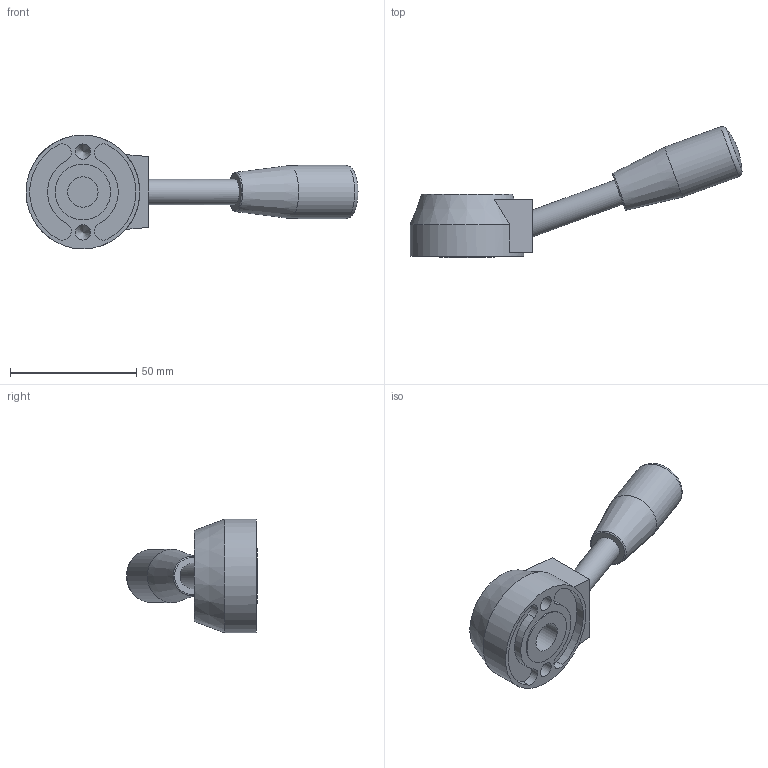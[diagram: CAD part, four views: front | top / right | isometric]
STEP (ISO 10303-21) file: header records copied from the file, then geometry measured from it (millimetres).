
FILE_DESCRIPTION( ( 'STEP AP203' ), '1' );
FILE_NAME( 'C:/Temp/Ganter_Step_05_03_2020/data/2_1/gn_512/gn_512_b/Control lever GN 512-45-B12.stp', '2020-03-05T11:51:36', ( 'License CC BY-ND 4.0' ), ( 'CADENAS' ), ' ', 'PARTsolutions', ' ' );
FILE_SCHEMA( ( 'CONFIG_CONTROL_DESIGN' ) );
Length unit declared in the file: millimetre
Products named in the file (1): _Control lever GN 512-45-B12
Bounding box: 131.34 x 51.82 x 45 mm (x, y, z)
Volume: 51429.9 mm3; surface area: 13429 mm2
Topology: 1 solids, 1 shells, 36 faces, 80 edges, 52 vertices
Faces by surface type: cylinder 16, plane 13, cone 4, torus 2, sphere 1
Full cylindrical faces by diameter (mm): 6 x2, 10 x1, 12 x1, 21 x1, 22 x1, 25 x1, 45 x1
Entity records: 938 total; most frequent: DIRECTION 168, CARTESIAN_POINT 157, ORIENTED_EDGE 116, AXIS2_PLACEMENT_3D 75, EDGE_CURVE 58, EDGE_LOOP 57, VERTEX_POINT 48, FACE_OUTER_BOUND 46
